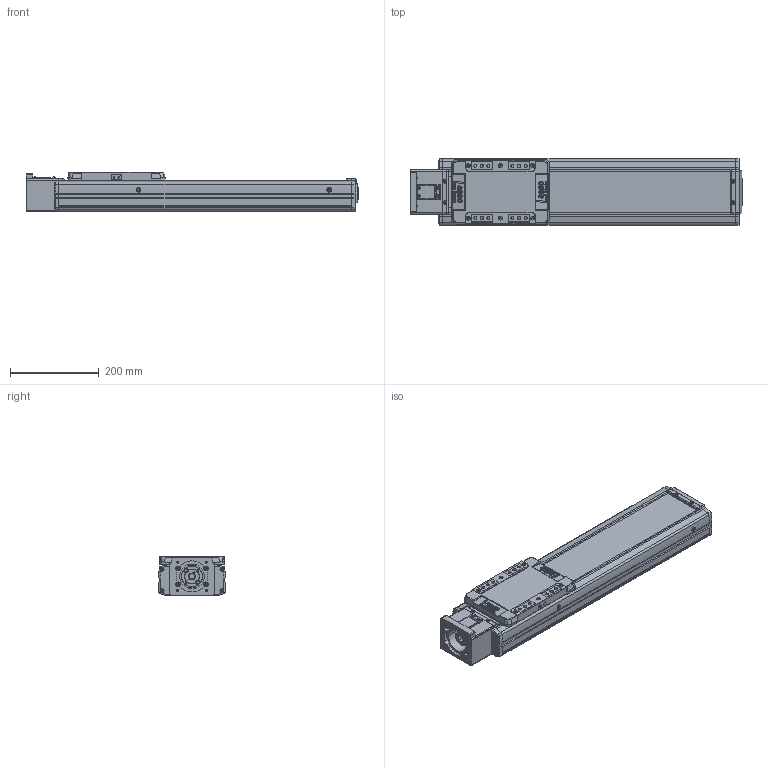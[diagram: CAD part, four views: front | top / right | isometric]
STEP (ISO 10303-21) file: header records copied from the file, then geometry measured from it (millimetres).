
FILE_DESCRIPTION(('STEP AP214'),'1');
FILE_NAME('Z:/Web/3D/SAN150/2013.04 (STP.)/SAN150ㅁㅁ-400S.stp','2013-05-07T23:49:45',(' '),(' '),'Spatial InterOp 3D',' ',' ');
FILE_SCHEMA(('automotive_design'));
Length unit declared in the file: millimetre
Products named in the file (75): SLBL-SAN150; SLCV-SAN150; FHCS M4.0 x 8.0; BHCS M4.0 x 10.0; SFX-SAN150; RRCV-SAN150; FRBL-SAN150; Spacer; RN15; FRCV-SAN150; Screw 20; BASE-SAN150-000L ; SUS COVER; 스크루 : Round - M5.0 x 6.0; BHCS M3.0 x 6.0; SSFX-SAN65; CPLCV-SAN65; SDWA47C(2); SDWA47C(3-1); SDWA47C(3); SDWA47C(1); SDWA47C(4); SDWA47C(5); MTHZ-SAN150-80
Bounding box: 749 x 150 x 90 mm (x, y, z)
Volume: 4512769.2 mm3; surface area: 868633.7 mm2
Topology: 75 solids, 75 shells, 2829 faces, 7358 edges, 4748 vertices
Faces by surface type: plane 1204, cylinder 1159, cone 365, sphere 56, bspline 29, torus 16
Entity records: 114246 total; most frequent: CARTESIAN_POINT 18556, DIRECTION 16019, ORIENTED_EDGE 14500, EDGE_CURVE 7250, AXIS2_PLACEMENT_3D 6038, VERTEX_POINT 4748, LINE 3943, VECTOR 3943
